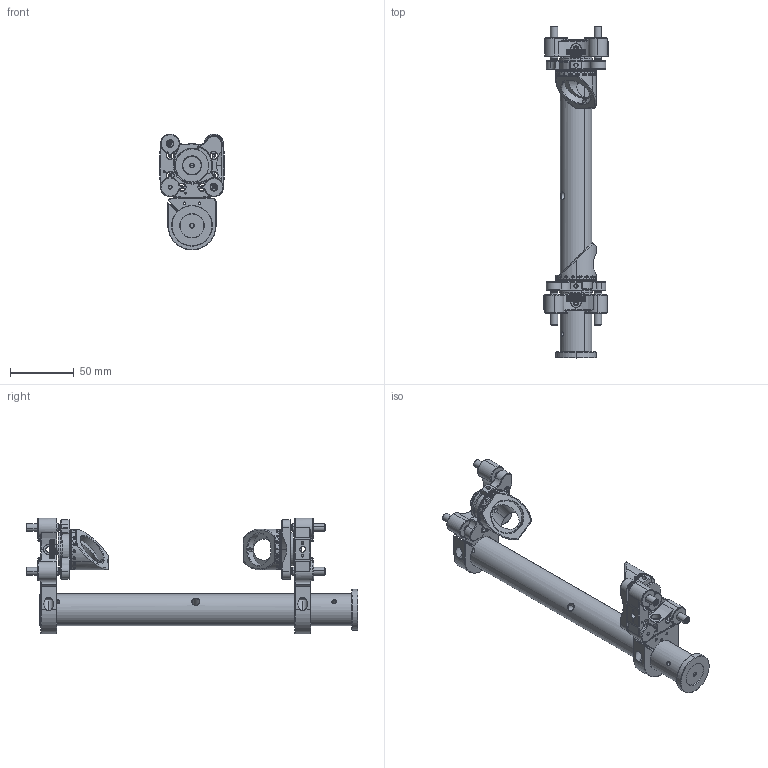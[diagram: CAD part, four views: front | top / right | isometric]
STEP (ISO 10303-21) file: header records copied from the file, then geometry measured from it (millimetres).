
FILE_DESCRIPTION (( 'STEP AP214' ), '1' );
FILE_NAME ('真空爬高架带旋钮.STEP', '2026-10-20T06:16:19', ( '' ), ( '' ), 'SwSTEP 2.0', 'SolidWorks 2024', '' );
FILE_SCHEMA (( 'AUTOMOTIVE_DESIGN' ));
Length unit declared in the file: millimetre
Products named in the file (10): 压簧; 调节螺母; 25mm支杆; Ø25 mm接杆滑块; 10.1.2.11，vmp1-2r，1英寸真空低漂移开口不锈钢反射调整架，右开口2轴调节.step; 标准接杆支架底座; 45度转接; 真空爬高架带旋钮; 旋钮; 挡片
Assembly tree (16 placements, depth 2):
  真空爬高架带旋钮
    Ø25 mm接杆滑块  x2
    45度转接  x2
    25mm支杆
    标准接杆支架底座
    10.1.2.11，vmp1-2r，1英寸真空低漂移开口不锈钢反射调整架，右开口2轴调节.step  x2
    挡片  x2
    调节螺母  x2
    旋钮  x2
    压簧  x2
Bounding box: 50.8 x 260.72 x 91.05 mm (x, y, z)
Volume: 170532.8 mm3; surface area: 70689.9 mm2
Topology: 14 solids, 30 shells, 3319 faces, 10192 edges, 7022 vertices
Faces by surface type: plane 1994, cylinder 773, cone 443, torus 44, bspline 43, sphere 22
Entity records: 85924 total; most frequent: CARTESIAN_POINT 42657, ORIENTED_EDGE 10241, DIRECTION 7138, EDGE_CURVE 5178, VERTEX_POINT 3574, AXIS2_PLACEMENT_3D 2610, B_SPLINE_CURVE_WITH_KNOTS 2309, VECTOR 1918
